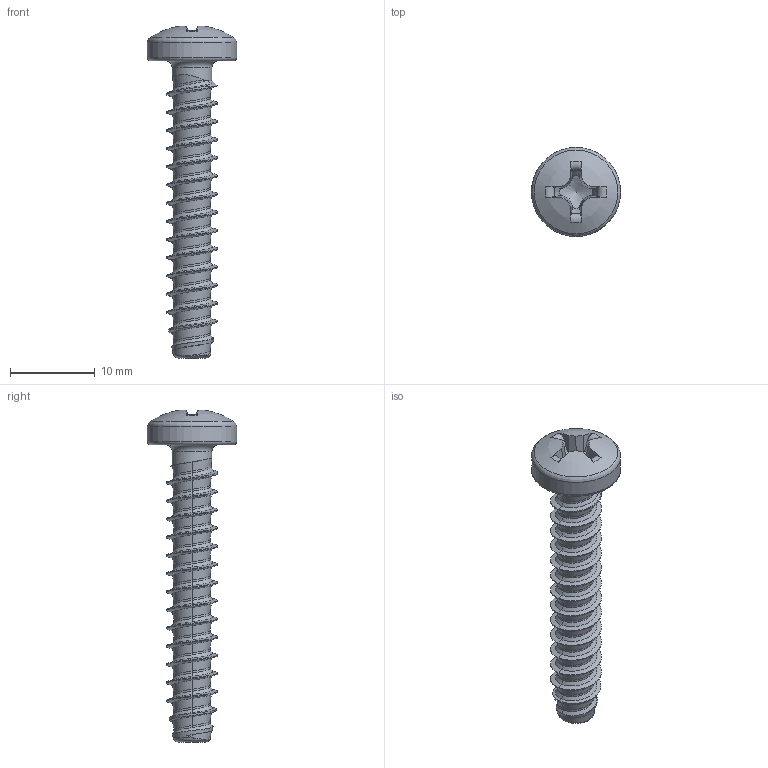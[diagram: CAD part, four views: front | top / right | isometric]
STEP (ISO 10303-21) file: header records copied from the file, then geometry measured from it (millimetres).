
FILE_DESCRIPTION(/* description */ (''),/* implementation_level */ '2;1');
FILE_NAME(/* name */ 'KN6032-STSplus-60x35-H3.step',/* time_stamp */ '2017-10-10T15:40:22+02:00',/* author */ (''),/* organization */ (''),/* preprocessor_version */ 'ST-DEVELOPER v16',/* originating_system */ 'SIEMENS PLM Software NX 10.0',/* authorisation */ '');
FILE_SCHEMA (('AUTOMOTIVE_DESIGN { 1 0 10303 214 3 1 1 1 }'));
Length unit declared in the file: millimetre
Products named in the file (1): KN6032-STSplus-60x35-H3
Bounding box: 10.5 x 10.5 x 39.08 mm (x, y, z)
Volume: 866 mm3; surface area: 1045.2 mm2
Topology: 1 solids, 1 shells, 118 faces, 285 edges, 169 vertices
Faces by surface type: bspline 81, plane 18, torus 8, cone 7, cylinder 3, sphere 1
Full cylindrical faces by diameter (mm): 4.68 x1, 10.5 x1
Entity records: 7684 total; most frequent: CARTESIAN_POINT 5509, ORIENTED_EDGE 542, EDGE_CURVE 271, DIRECTION 243, VERTEX_POINT 164, B_SPLINE_CURVE_WITH_KNOTS 143, EDGE_LOOP 126, ADVANCED_FACE 118
